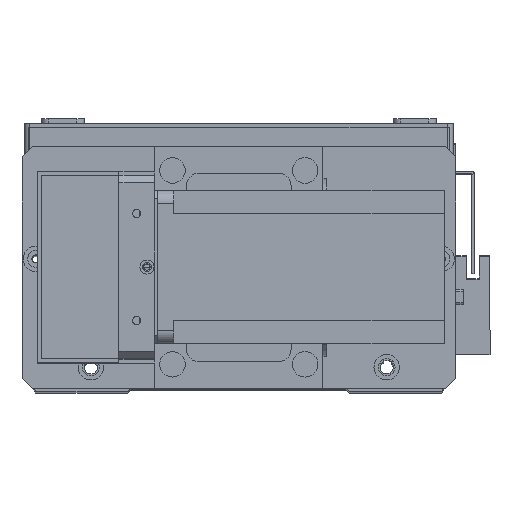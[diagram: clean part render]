
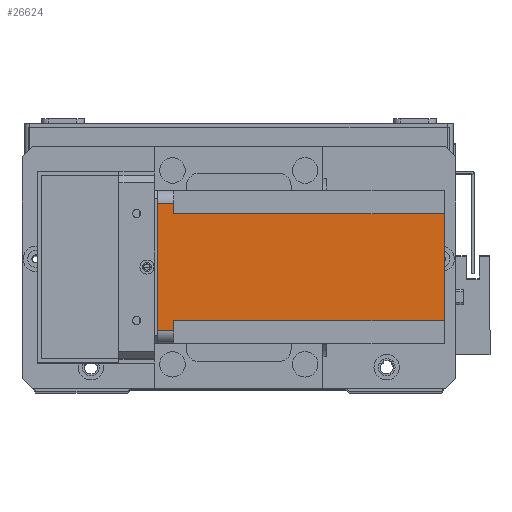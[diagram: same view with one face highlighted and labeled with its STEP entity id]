
A CAD part, top view. The second image highlights one B-rep face of the part: STEP entity #26624.
In plain terms, the highlighted planar face has unit normal (0, 0, 1) as drawn and (-1, 0, 0) by its records, which use the part's own axes.
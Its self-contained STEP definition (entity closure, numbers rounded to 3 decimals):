
#21 = EDGE_CURVE ( 'NONE', #29256, #976, #8133, .T. ) ;
#201 = CARTESIAN_POINT ( 'NONE',  ( 0., 5., 0. ) ) ;
#976 = VERTEX_POINT ( 'NONE', #27863 ) ;
#1146 = VECTOR ( 'NONE', #10299, 1000. ) ;
#1264 = VECTOR ( 'NONE', #13383, 1000. ) ;
#1347 = VERTEX_POINT ( 'NONE', #10872 ) ;
#1371 = ORIENTED_EDGE ( 'NONE', *, *, #21, .T. ) ;
#1606 = VECTOR ( 'NONE', #5082, 1000. ) ;
#1695 = CARTESIAN_POINT ( 'NONE',  ( 0., 0., 0. ) ) ;
#1975 = LINE ( 'NONE', #27567, #1264 ) ;
#2056 = EDGE_CURVE ( 'NONE', #28469, #11499, #19607, .T. ) ;
#2447 = LINE ( 'NONE', #7032, #13519 ) ;
#2713 = AXIS2_PLACEMENT_3D ( 'NONE', #26324, #21599, #7494 ) ;
#2936 = ORIENTED_EDGE ( 'NONE', *, *, #2056, .F. ) ;
#4133 = CARTESIAN_POINT ( 'NONE',  ( 0., 51., -112.5 ) ) ;
#4722 = DIRECTION ( 'NONE',  ( 0., 1., 0. ) ) ;
#5082 = DIRECTION ( 'NONE',  ( 0., 0., -1. ) ) ;
#5096 = PLANE ( 'NONE',  #2713 ) ;
#5786 = DIRECTION ( 'NONE',  ( 0., 1., 0. ) ) ;
#6714 = EDGE_CURVE ( 'NONE', #1347, #30132, #7591, .T. ) ;
#7032 = CARTESIAN_POINT ( 'NONE',  ( 0., 55., -112.5 ) ) ;
#7494 = DIRECTION ( 'NONE',  ( 0., -1., 0. ) ) ;
#7591 = LINE ( 'NONE', #1695, #19387 ) ;
#7869 = LINE ( 'NONE', #14486, #1606 ) ;
#7973 = ORIENTED_EDGE ( 'NONE', *, *, #6714, .F. ) ;
#8133 = LINE ( 'NONE', #15285, #1146 ) ;
#8206 = DIRECTION ( 'NONE',  ( 0., 0., 1. ) ) ;
#8655 = CARTESIAN_POINT ( 'NONE',  ( 0., 55., -6.5 ) ) ;
#8871 = LINE ( 'NONE', #27115, #13660 ) ;
#8930 = EDGE_LOOP ( 'NONE', ( #2936, #20595, #7973, #10157, #15075, #12533, #1371, #21236 ) ) ;
#9104 = EDGE_CURVE ( 'NONE', #11499, #976, #7869, .T. ) ;
#9171 = CARTESIAN_POINT ( 'NONE',  ( 0., 0., -6.5 ) ) ;
#9381 = DIRECTION ( 'NONE',  ( 0., 0., -1. ) ) ;
#10157 = ORIENTED_EDGE ( 'NONE', *, *, #17988, .T. ) ;
#10299 = DIRECTION ( 'NONE',  ( 0., -1., 0. ) ) ;
#10872 = CARTESIAN_POINT ( 'NONE',  ( 0., 55., 0. ) ) ;
#11499 = VERTEX_POINT ( 'NONE', #26410 ) ;
#12533 = ORIENTED_EDGE ( 'NONE', *, *, #19658, .F. ) ;
#13383 = DIRECTION ( 'NONE',  ( 0., 0., 1. ) ) ;
#13519 = VECTOR ( 'NONE', #9381, 1000. ) ;
#13660 = VECTOR ( 'NONE', #5786, 1000. ) ;
#13870 = CARTESIAN_POINT ( 'NONE',  ( 0., 5., -6.5 ) ) ;
#13879 = VERTEX_POINT ( 'NONE', #8655 ) ;
#14486 = CARTESIAN_POINT ( 'NONE',  ( 0., 9., -112.5 ) ) ;
#15075 = ORIENTED_EDGE ( 'NONE', *, *, #21569, .F. ) ;
#15285 = CARTESIAN_POINT ( 'NONE',  ( 0., 0., -112.5 ) ) ;
#17988 = EDGE_CURVE ( 'NONE', #1347, #13879, #2447, .T. ) ;
#18359 = EDGE_CURVE ( 'NONE', #28469, #30132, #29813, .T. ) ;
#19387 = VECTOR ( 'NONE', #30015, 1000. ) ;
#19435 = CARTESIAN_POINT ( 'NONE',  ( 0., 51., -6.5 ) ) ;
#19607 = LINE ( 'NONE', #9171, #25923 ) ;
#19658 = EDGE_CURVE ( 'NONE', #29256, #25016, #1975, .T. ) ;
#20595 = ORIENTED_EDGE ( 'NONE', *, *, #18359, .T. ) ;
#21236 = ORIENTED_EDGE ( 'NONE', *, *, #9104, .F. ) ;
#21569 = EDGE_CURVE ( 'NONE', #25016, #13879, #8871, .T. ) ;
#21599 = DIRECTION ( 'NONE',  ( -1., 0., 0. ) ) ;
#22714 = FACE_OUTER_BOUND ( 'NONE', #8930, .T. ) ;
#23470 = VECTOR ( 'NONE', #8206, 1000. ) ;
#25016 = VERTEX_POINT ( 'NONE', #19435 ) ;
#25923 = VECTOR ( 'NONE', #4722, 1000. ) ;
#26324 = CARTESIAN_POINT ( 'NONE',  ( 0., 0., -112.5 ) ) ;
#26410 = CARTESIAN_POINT ( 'NONE',  ( 0., 9., -6.5 ) ) ;
#26624 = ADVANCED_FACE ( 'NONE', ( #22714 ), #5096, .T. ) ;
#27041 = CARTESIAN_POINT ( 'NONE',  ( 0., 5., -112.5 ) ) ;
#27115 = CARTESIAN_POINT ( 'NONE',  ( 0., 60., -6.5 ) ) ;
#27567 = CARTESIAN_POINT ( 'NONE',  ( 0., 51., -112.5 ) ) ;
#27863 = CARTESIAN_POINT ( 'NONE',  ( 0., 9., -112.5 ) ) ;
#28469 = VERTEX_POINT ( 'NONE', #13870 ) ;
#29256 = VERTEX_POINT ( 'NONE', #4133 ) ;
#29813 = LINE ( 'NONE', #27041, #23470 ) ;
#30015 = DIRECTION ( 'NONE',  ( 0., -1., 0. ) ) ;
#30132 = VERTEX_POINT ( 'NONE', #201 ) ;
